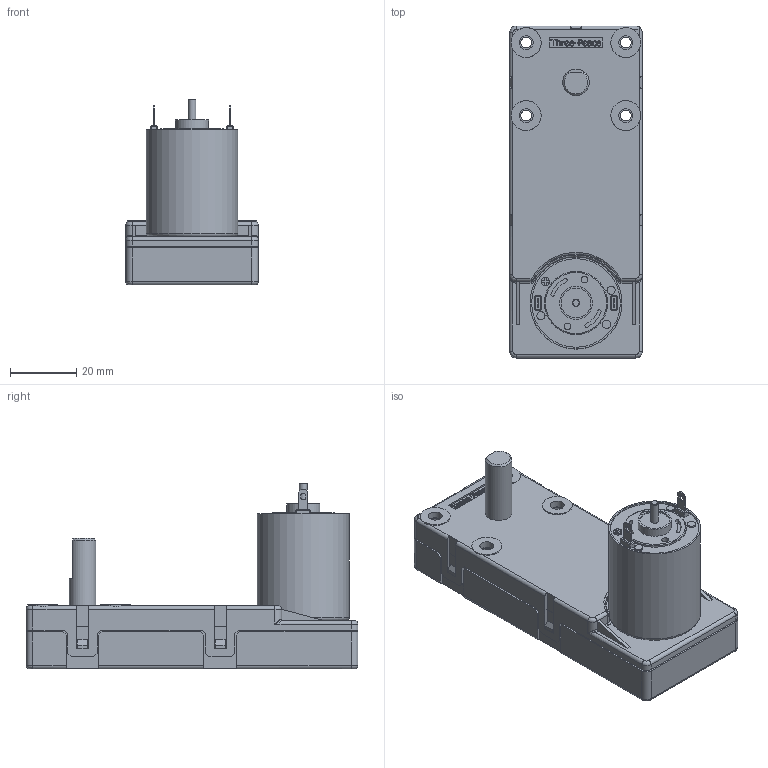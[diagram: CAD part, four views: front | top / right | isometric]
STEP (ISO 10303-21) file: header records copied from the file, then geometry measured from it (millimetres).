
FILE_DESCRIPTION((''),'2;1');
FILE_NAME('\\Servert1600\THREEPEACE\2015homepage\STP\HP-Data_GM_3D_STEP\TP-2732D,E,F-IA,IB-70～450-J00-12,24.stp','2016-11-11T11:52:02',('Administrator'),(''),'Autodesk Inventor 2010','Autodesk Inventor 2010','');
FILE_SCHEMA(('AUTOMOTIVE_DESIGN { 1 0 10303 214 1 1 1 1 }'));
Length unit declared in the file: millimetre
Products named in the file (7): TP-2732D,E,F-IA,IB-70～450-J00-12,24; IA,IB; KE0016-HP; KE0015-HP; DS0025-HP; tp_2732d,e,f; M2
Assembly tree (7 placements, depth 3):
  TP-2732D,E,F-IA,IB-70～450-J00-12,24
    IA,IB
      KE0016-HP
      KE0015-HP
      DS0025-HP
    tp_2732d,e,f
    M2  x2
Bounding box: 40 x 100 x 56 mm (x, y, z)
Volume: 90022.2 mm3; surface area: 29429.5 mm2
Topology: 6 solids, 6 shells, 802 faces, 2102 edges, 1376 vertices
Faces by surface type: plane 452, bspline 227, cylinder 98, torus 16, cone 7, sphere 2
Full cylindrical faces by diameter (mm): 2 x2, 2.305 x2, 2.324 x2, 2.5 x5, 2.6 x2, 2.8 x2, 4.2 x12, 4.5 x2, 8 x3, 9 x6, 10 x3, 19 x1, 26.7 x1, 27.7 x1
Entity records: 25769 total; most frequent: CARTESIAN_POINT 7981, ORIENTED_EDGE 3912, DIRECTION 2949, EDGE_CURVE 1956, VERTEX_POINT 1316, VECTOR 1265, LINE 1265, EDGE_LOOP 946
